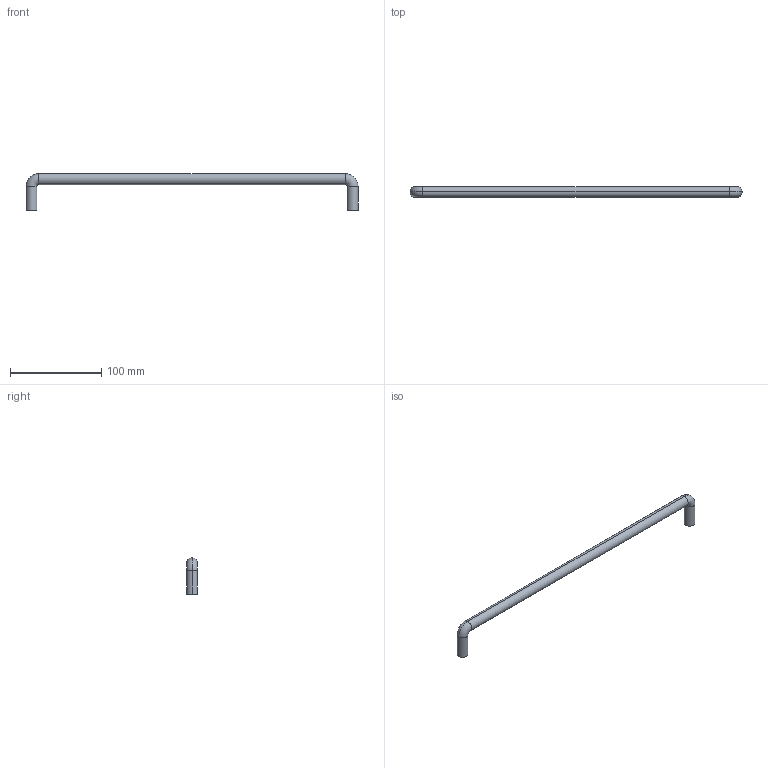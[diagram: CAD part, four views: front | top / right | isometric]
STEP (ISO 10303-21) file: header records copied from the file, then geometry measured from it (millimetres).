
FILE_DESCRIPTION( ( '' ), '1' );
FILE_NAME( 'D:/temp/hettich_stp/hettich/prodecor_handles/organic/9070111.stp', '2013-02-26T12:50:35', ( '' ), ( '' ), ' ', ' ', ' ' );
FILE_SCHEMA( ( 'automotive_design' ) );
Length unit declared in the file: millimetre
Products named in the file (1): 1
Bounding box: 364 x 12 x 40 mm (x, y, z)
Volume: 46472.9 mm3; surface area: 16052.3 mm2
Topology: 1 solids, 1 shells, 18 faces, 34 edges, 20 vertices
Faces by surface type: cylinder 10, torus 4, plane 4
Entity records: 896 total; most frequent: DIRECTION 96, STYLED_ITEM 73, PRESENTATION_STYLE_ASSIGNMENT 73, CARTESIAN_POINT 73, COLOUR_RGB 73, ORIENTED_EDGE 68, AXIS2_PLACEMENT_3D 43, EDGE_CURVE 34
